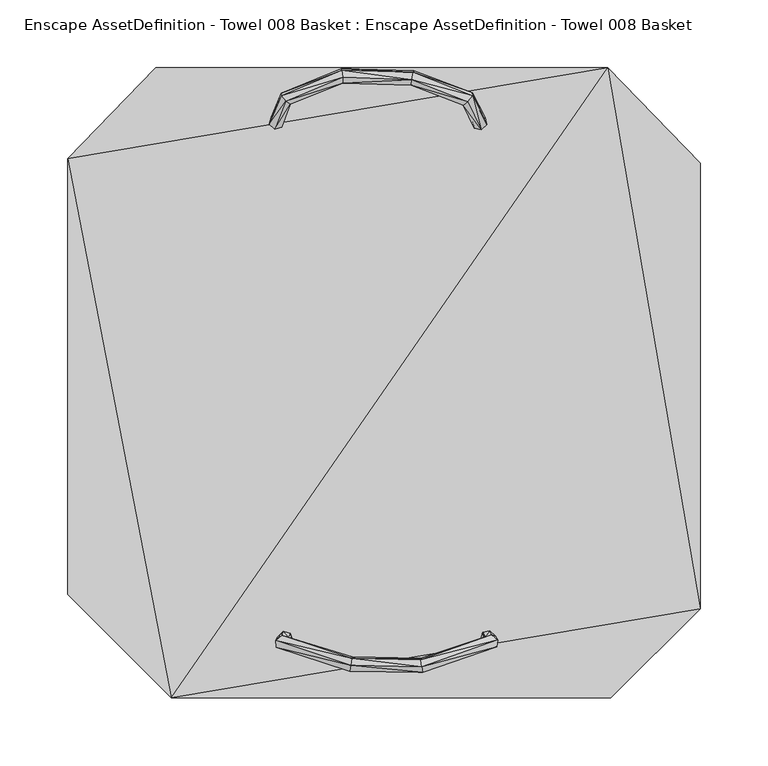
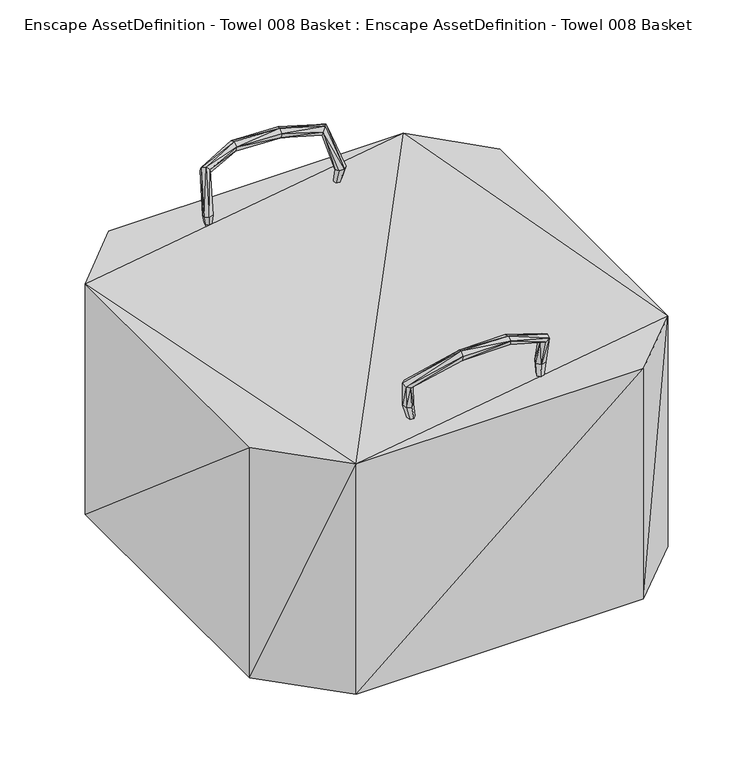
"""IFC4 building model written with IfcOpenShell, lengths in millimetres: geographic element geometry, Enscape AssetDefinition - Towel 008 Basket : Enscape AssetDefinition - Towel 008 Basket."""

from ifc_helpers import new_model, si_unit, origin, place, context, project, spatial, faceted_brep, source, transform, mapped, element, save


def enscape_assetdefinition_towel_008_basket_enscape_9779ed23(model_context):
    return source(origin(), model_context, "Body", "Brep", [
        faceted_brep([(167.687358, -232.1767534, 0.0), (-157.186608, -232.1767534, 0.0), (-233.5851737, -155.7763102, 0.0), (167.687358, -232.1767534, 275.6646488), (-157.186608, -232.1767534, 275.6646488), (233.7157501, -166.1483265, 275.6646488), (233.7157501, -166.1483265, 0.0), (233.7157501, 162.960236, 0.0), (-233.5851737, 166.4150945, 275.6646488), (-233.5851737, -155.7763102, 275.6646488), (165.215586, 233.7157501, 275.6646488), (233.7157501, 162.960236, 275.6646488), (165.215586, 233.7157501, 0.0), (-168.5398856, 233.7157501, 0.0), (-168.5398856, 233.7157501, 275.6646488), (-233.5851737, 166.4150945, 0.0)], [[[0, 1, 2]], [[3, 1, 0]], [[1, 3, 4]], [[4, 2, 1]], [[5, 0, 6]], [[0, 5, 3]], [[0, 7, 6]], [[0, 2, 7]], [[5, 4, 3]], [[8, 9, 4]], [[2, 4, 9]], [[10, 4, 5]], [[8, 4, 10]], [[6, 11, 5]], [[10, 5, 11]], [[11, 6, 7]], [[7, 10, 11]], [[10, 7, 12]], [[7, 13, 12]], [[7, 2, 13]], [[12, 14, 10]], [[8, 10, 14]], [[14, 12, 13]], [[8, 13, 15]], [[13, 8, 14]], [[13, 2, 15]], [[15, 9, 8]], [[9, 15, 2]]]),
        faceted_brep([(21.5853863, 227.2761496, 326.7021222), (58.2792336, 208.0617779, 326.1704637), (20.6992846, 221.927838, 328.3586741), (61.6967847, 212.5706352, 324.9336476), (58.4769757, 206.1086259, 331.2911924), (65.1796196, 194.1789243, 291.2301488), (61.9803333, 208.6307439, 335.1471157), (20.2291853, 220.7675145, 333.7610695), (71.910244, 187.8661625, 293.237402), (66.6048422, 189.0619333, 292.3233152), (61.9374278, 202.0922593, 233.0908228), (69.2071731, 198.1281338, 291.0995724), (75.9620536, 191.699729, 293.0788537), (65.4594435, 213.0631086, 333.9569601), (20.6843642, 224.9629781, 337.4602872), (65.3717681, 215.0535682, 328.864186), (21.6003089, 230.3224507, 335.7627422), (74.6860698, 196.8465521, 292.039771), (22.0293673, 231.4753161, 330.4032174), (-31.5451445, 232.8259323, 331.0094909), (-30.9668494, 231.8726778, 336.3782991), (-31.4985079, 228.5073678, 327.4296365), (-72.1079861, 212.7907601, 323.2882914), (-75.7400599, 214.9416456, 326.5622102), (-75.9601847, 212.9026827, 331.641911), (-30.3941479, 226.5411598, 338.2718043), (-77.8424507, 198.7605365, 286.8500251), (-83.2877689, 197.2681655, 286.6989174), (-68.8452761, 208.5803805, 325.1220628), (-72.3001304, 203.922293, 242.354774), (-73.9622671, 194.9120539, 287.7528987), (-84.6906, 192.0280562, 287.4021975), (-80.7264745, 188.2989542, 288.32748), (-75.443451, 189.6999165, 288.5326888), (-30.9108859, 223.2224755, 329.2335758), (-69.1474828, 206.5824629, 330.2912948), (-72.6284532, 208.7520021, 333.5371895), (-30.3829565, 222.2113996, 334.7050231)], [[[0, 1, 2]], [[1, 0, 3]], [[4, 2, 1]], [[3, 5, 1]], [[5, 4, 1]], [[6, 7, 4]], [[2, 4, 7]], [[4, 8, 6]], [[8, 4, 9]], [[4, 5, 9]], [[10, 5, 11]], [[5, 10, 9]], [[5, 3, 11]], [[10, 8, 9]], [[10, 12, 8]], [[8, 13, 6]], [[13, 8, 12]], [[13, 14, 6]], [[7, 6, 14]], [[15, 16, 13]], [[14, 13, 16]], [[12, 15, 13]], [[10, 17, 12]], [[15, 12, 17]], [[10, 11, 17]], [[3, 17, 11]], [[17, 3, 15]], [[3, 18, 15]], [[16, 15, 18]], [[19, 16, 18]], [[16, 19, 20]], [[20, 14, 16]], [[18, 3, 0]], [[0, 19, 18]], [[19, 0, 21]], [[19, 22, 23]], [[22, 19, 21]], [[23, 20, 19]], [[20, 23, 24]], [[24, 25, 20]], [[14, 20, 25]], [[26, 23, 22]], [[23, 26, 27]], [[27, 24, 23]], [[21, 28, 22]], [[28, 26, 22]], [[29, 26, 30]], [[29, 27, 26]], [[26, 28, 30]], [[29, 31, 27]], [[24, 27, 31]], [[29, 32, 31]], [[32, 29, 33]], [[29, 30, 33]], [[28, 33, 30]], [[28, 21, 34]], [[34, 35, 28]], [[33, 28, 35]], [[35, 32, 33]], [[36, 31, 32]], [[32, 35, 36]], [[31, 36, 24]], [[25, 24, 36]], [[37, 36, 35]], [[36, 37, 25]], [[35, 34, 37]], [[34, 0, 2]], [[0, 34, 21]], [[2, 37, 34]], [[37, 2, 7]], [[14, 37, 7]], [[37, 14, 25]]]),
        faceted_brep([(-24.7231113, -211.3953783, 340.2174635), (-69.7780123, -192.2817335, 315.201492), (-23.8929752, -206.170185, 338.3333461), (-74.186121, -196.0742549, 315.5279416), (-70.5652431, -187.1890116, 316.9848826), (-67.6961441, -189.3790647, 289.9299134), (-75.575905, -185.8551889, 319.0835271), (-23.4266071, -201.9486271, 341.9803402), (-74.3838631, -183.105488, 291.6013814), (-69.082186, -184.2769898, 290.9857897), (-64.6852686, -196.8260382, 233.0908228), (-71.7535472, -193.3320119, 289.4915412), (-78.4692469, -186.944635, 291.1741875), (-80.0343814, -189.4984627, 319.4174521), (-23.7922418, -202.9559653, 347.4797421), (-79.4281079, -194.6266321, 317.6433797), (-24.5999886, -208.1811759, 349.3377478), (-77.2287105, -192.0709442, 290.1202062), (-25.0626277, -212.4008564, 345.7206206), (28.5324067, -213.3783799, 346.2895865), (28.0007461, -209.3228282, 350.0), (28.3738431, -212.1303681, 340.8256146), (78.2752425, -196.0518808, 316.5987339), (83.43327, -194.4606257, 318.6470324), (84.1309609, -189.2428905, 320.4285454), (27.3161198, -203.9651984, 348.278186), (75.309137, -192.7313189, 288.8498203), (80.7581841, -191.5094363, 289.3945172), (74.035022, -192.3190411, 316.4046861), (69.5541541, -198.6560719, 242.354774), (71.4588029, -188.7504171, 289.43744), (82.1964626, -186.3737915, 290.4541138), (78.2659069, -182.4619069, 290.9951079), (72.9754341, -183.6184927, 290.5250086), (27.7283889, -206.8137835, 339.0720909), (74.8539624, -187.1181168, 318.2235414), (79.7825469, -185.620148, 320.1879066), (27.202324, -202.7078684, 342.814214)], [[[0, 1, 2]], [[1, 0, 3]], [[4, 2, 1]], [[3, 5, 1]], [[5, 4, 1]], [[6, 7, 4]], [[2, 4, 7]], [[4, 8, 6]], [[8, 4, 9]], [[4, 5, 9]], [[10, 5, 11]], [[5, 10, 9]], [[5, 3, 11]], [[10, 8, 9]], [[10, 12, 8]], [[8, 13, 6]], [[13, 8, 12]], [[13, 14, 6]], [[7, 6, 14]], [[15, 16, 13]], [[14, 13, 16]], [[12, 15, 13]], [[10, 17, 12]], [[15, 12, 17]], [[10, 11, 17]], [[3, 17, 11]], [[17, 3, 15]], [[3, 18, 15]], [[16, 15, 18]], [[19, 16, 18]], [[16, 19, 20]], [[20, 14, 16]], [[18, 3, 0]], [[0, 19, 18]], [[19, 0, 21]], [[19, 22, 23]], [[22, 19, 21]], [[23, 20, 19]], [[20, 23, 24]], [[24, 25, 20]], [[14, 20, 25]], [[26, 23, 22]], [[23, 26, 27]], [[27, 24, 23]], [[21, 28, 22]], [[28, 26, 22]], [[29, 26, 30]], [[29, 27, 26]], [[26, 28, 30]], [[29, 31, 27]], [[24, 27, 31]], [[29, 32, 31]], [[32, 29, 33]], [[29, 30, 33]], [[28, 33, 30]], [[28, 21, 34]], [[34, 35, 28]], [[33, 28, 35]], [[35, 32, 33]], [[36, 31, 32]], [[32, 35, 36]], [[31, 36, 24]], [[25, 24, 36]], [[37, 36, 35]], [[36, 37, 25]], [[35, 34, 37]], [[34, 0, 2]], [[0, 34, 21]], [[2, 37, 34]], [[37, 2, 7]], [[14, 37, 7]], [[37, 14, 25]]]),
    ])


if __name__ == "__main__":
    model = new_model("IFC4")
    model_context = context("Model", 3, world=origin())
    ifc_project = project(units=[si_unit("LENGTHUNIT", "METRE", prefix="MILLI")], contexts=[model_context])
    site = spatial("IfcSite", under=ifc_project)
    building = spatial("IfcBuilding", under=site)
    placement = place(None, origin())
    enscape_assetdefinition_towel_008_basket_enscape_shape = enscape_assetdefinition_towel_008_basket_enscape_9779ed23(model_context)
    element("IfcGeographicElement", 1, ObjectType="Enscape AssetDefinition - Towel 008 Basket : Enscape AssetDefinition - Towel 008 Basket", at=placement, inside=building, context=model_context, shape_type="MappedRepresentation", body=[
        mapped(enscape_assetdefinition_towel_008_basket_enscape_shape, transform((0.0, 0.0, 0.0), x_axis=(1.0, 0.0, 0.0), y_axis=(0.0, 1.0, 0.0), z_axis=(0.0, 0.0, 1.0))),
    ])
    save(model, "model.ifc")
